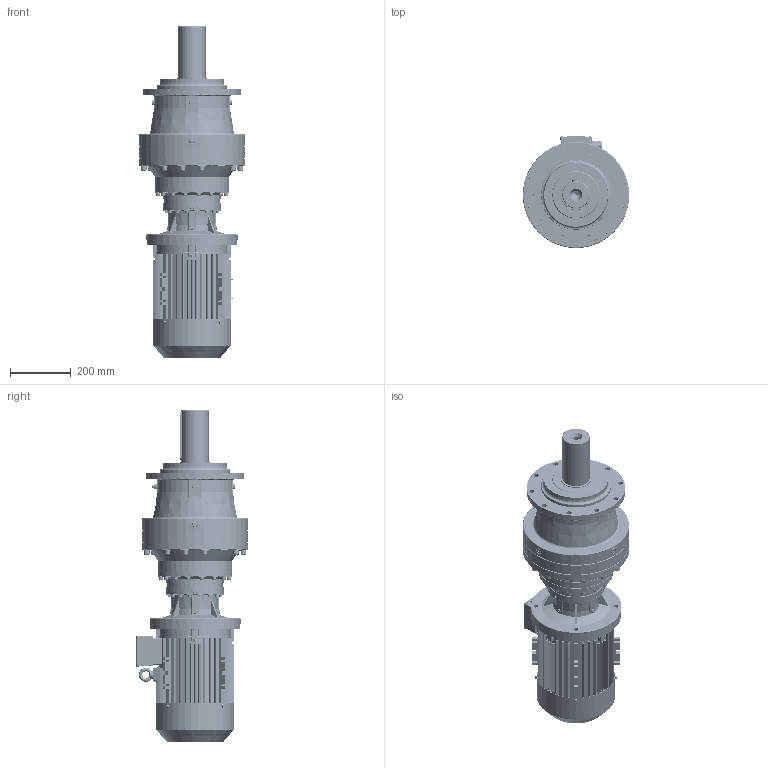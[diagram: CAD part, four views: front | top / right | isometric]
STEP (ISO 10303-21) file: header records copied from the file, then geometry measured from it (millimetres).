
FILE_DESCRIPTION (( 'STEP AP203' ), '1' );
FILE_NAME ('PVL_2303L-132S-4.STEP', '2019-05-10T09:50:42', ( '' ), ( '' ), 'SwSTEP 2.0', 'SolidWorks 2012', '' );
FILE_SCHEMA (( 'CONFIG_CONTROL_DESIGN' ));
Products named in the file (36): plain parallel keys_GB_CONNECTING_PIECE_KEYS_CSK 10X70_1; MX3-132S_B5; PVL_2303L-132S-4; cross recessed pan head screws gb_GB_CROSS_SCREWS_TYPE1 M5X8-8  H type-N_1; DMX-IE3 132S4 fan_1; cross recessed pan head screws gb_GB_CROSS_SCREWS_TYPE1 M5X25-25  H type-N_1; hexagon socket head cap screws gb_GB_FASTENER_SCREWS_HSHCS M8X45-N; cross recessed pan head screws gb_GB_CROSS_SCREWS_TYPE1 M4X6-6  H type-N_1; DMX-IE3 132S4 grouding mark_1; eyebolts gb_GB_FASTENER_SCREWS_FRS M10-S_1; plain washers--product grade c gb_GB_FASTENER_WASHER_SMWC 4_1; DMX-IE3 132S4  oil seal_1; DMX-IE3 132S4   gasket for terminal box cover_1; DMX-IE3 132S4  cable glands_1; circlips for shaft--type a large gb_GB_CONNECTING_PIECE_RING_RRA 29_1; hexagon socket head cap screws gb_GB_FASTENER_SCREWS_HSHCS M8X35-N_1; spring lock washers--normal type gb_GB_FASTENER_WASHER_SW 8_1; DMX-IE3 132S4   gasket for terminal box base_1; DMX-IE3 132S4  connection board_1; hex flange bolts-heavy grade b gb_GB_FASTENER_BOLT_HFBB M5X10-N_1; hexagon nuts grade c gb_GB_FASTENER_NUT_SNC1 M8-N_1; cross recessed pan head screws gb_GB_CROSS_SCREWS_TYPE1 M5X10-10  H type-N_1; DMX-IE3 132S4  terminal box_1; DMX-IE3 132S4   fan cover_1; DMX-IE3 132S4   rotor2_1; DMX-IE3 132S4   terminal box cover_1; DMX-IE3 132S4   rotor1_1; DMX-IE3 132S4  casing_1; DMX-IE3 132S4  flange B5; DMX-IE3 132S4  flange B3_1; EK2303L_Varsayìlan; PNL_2303L_0_0_A13_B5_ML31A_FL7A_0_0_0_0_0_0_0_0_0_0_0_M1; FL7A_Varsayìlan; ML31A_Varsayìlan; P23_Varsayìlan; 11132B5_Varsayìlan
Assembly tree (67 placements, depth 3):
  PVL_2303L-132S-4
    PNL_2303L_0_0_A13_B5_ML31A_FL7A_0_0_0_0_0_0_0_0_0_0_0_M1
      P23_Varsayìlan
      11132B5_Varsayìlan
      ML31A_Varsayìlan
      EK2303L_Varsayìlan
      FL7A_Varsayìlan
    MX3-132S_B5
      DMX-IE3 132S4  casing_1
      DMX-IE3 132S4  flange B5
      DMX-IE3 132S4  flange B3_1
      DMX-IE3 132S4   rotor1_1
      DMX-IE3 132S4   rotor2_1
      DMX-IE3 132S4   terminal box cover_1
      DMX-IE3 132S4  terminal box_1
      DMX-IE3 132S4   fan cover_1
      hex flange bolts-heavy grade b gb_GB_FASTENER_BOLT_HFBB M5X10-N_1  x4
      cross recessed pan head screws gb_GB_CROSS_SCREWS_TYPE1 M5X10-10  H type-N_1  x4
      hexagon nuts grade c gb_GB_FASTENER_NUT_SNC1 M8-N_1  x7
      spring lock washers--normal type gb_GB_FASTENER_WASHER_SW 8_1  x8
      hexagon socket head cap screws gb_GB_FASTENER_SCREWS_HSHCS M8X35-N_1  x5
      DMX-IE3 132S4   gasket for terminal box base_1
      DMX-IE3 132S4  connection board_1
      DMX-IE3 132S4   gasket for terminal box cover_1
      DMX-IE3 132S4  oil seal_1
      DMX-IE3 132S4  cable glands_1  x2
      circlips for shaft--type a large gb_GB_CONNECTING_PIECE_RING_RRA 29_1
      DMX-IE3 132S4 grouding mark_1
      cross recessed pan head screws gb_GB_CROSS_SCREWS_TYPE1 M4X6-6  H type-N_1  x3
      eyebolts gb_GB_FASTENER_SCREWS_FRS M10-S_1
      plain washers--product grade c gb_GB_FASTENER_WASHER_SMWC 4_1
      hexagon socket head cap screws gb_GB_FASTENER_SCREWS_HSHCS M8X45-N  x3
      DMX-IE3 132S4 fan_1
      cross recessed pan head screws gb_GB_CROSS_SCREWS_TYPE1 M5X25-25  H type-N_1  x2
      cross recessed pan head screws gb_GB_CROSS_SCREWS_TYPE1 M5X8-8  H type-N_1  x4
      plain parallel keys_GB_CONNECTING_PIECE_KEYS_CSK 10X70_1
Bounding box: 350 x 370 x 1093.7 mm (x, y, z)
Volume: 34855786.9 mm3; surface area: 3065385.7 mm2
Topology: 76 solids, 78 shells, 7894 faces, 20599 edges, 13005 vertices
Faces by surface type: plane 3783, cylinder 2169, cone 1094, bspline 848
Entity records: 260189 total; most frequent: CARTESIAN_POINT 78519, ORIENTED_EDGE 37578, DIRECTION 36527, EDGE_CURVE 18789, AXIS2_PLACEMENT_3D 13114, VERTEX_POINT 11967, LINE 10299, VECTOR 10299
